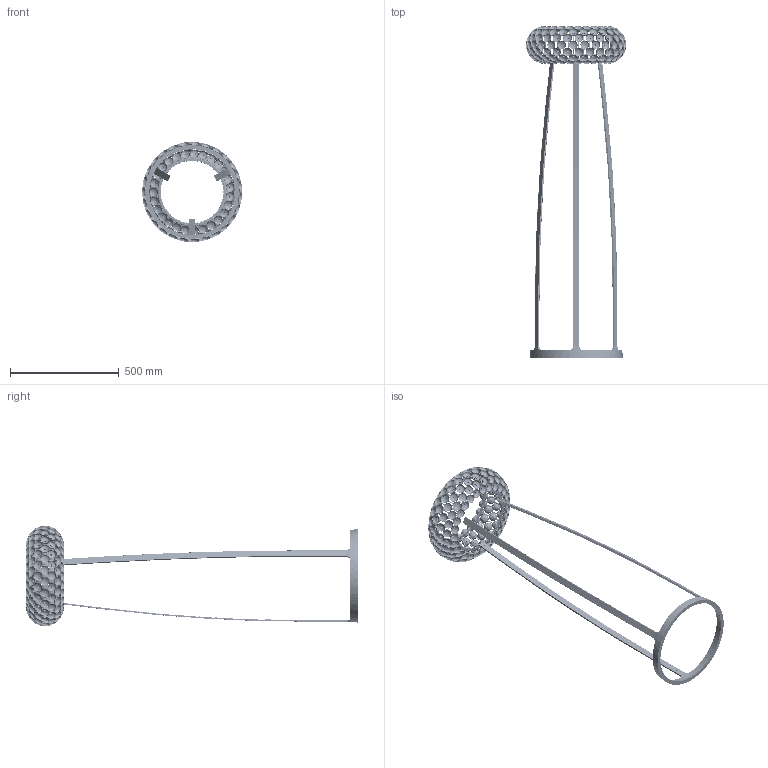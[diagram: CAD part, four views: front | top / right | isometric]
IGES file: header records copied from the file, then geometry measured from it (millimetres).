
Start section: SolidWorks IGES file using analytic representation for surfaces
Global section: file name: X:\stage\CABOCHE\CABOCHE MEDIA TERRA.IGS; native system: SolidWorks 2006 by SolidWorks Corporation; preprocessor: SolidWorks 2006 by SolidWorks Corporation; author: stagetec; date: 061006.163338; units: millimetre
Bounding box: 460.32 x 1527.47 x 460.92 mm (x, y, z)
Surface area: 2116042.6 mm2 (no closed solid volume)
Topology: 0 solids, 0 shells, 32401 faces, 266838 edges, 263712 vertices
Faces by surface type: revolution 17653, bspline 14748
